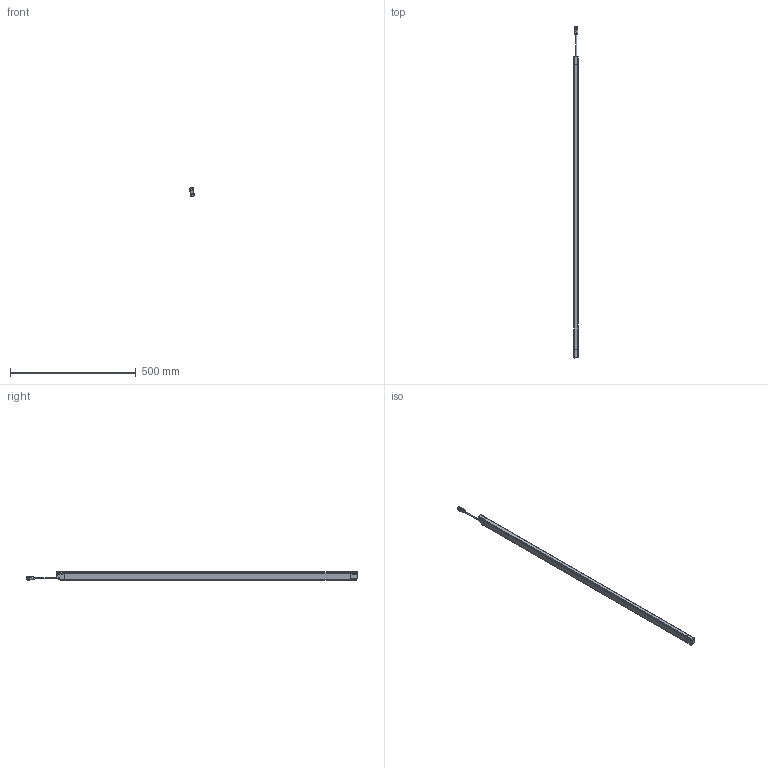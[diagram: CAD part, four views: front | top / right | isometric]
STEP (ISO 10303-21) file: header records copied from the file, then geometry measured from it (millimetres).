
FILE_DESCRIPTION((''),'2;1');
FILE_NAME('2023842','2017-01-19T',('smayer'),(''),'PRO/ENGINEER BY PARAMETRIC TECHNOLOGY CORPORATION, 2015110','PRO/ENGINEER BY PARAMETRIC TECHNOLOGY CORPORATION, 2015110','');
FILE_SCHEMA(('AUTOMOTIVE_DESIGN { 1 0 10303 214 1 1 1 1 }'));
Length unit declared in the file: millimetre
Products named in the file (1): 2023842
Bounding box: 17.36 x 1320.24 x 33.49 mm (x, y, z)
Surface area: 115216.3 mm2 (no closed solid volume)
Topology: 0 solids, 77 shells, 263 faces, 1412 edges, 1191 vertices
Faces by surface type: cylinder 136, plane 71, torus 27, cone 14, bspline 11, sphere 4
Entity records: 22655 total; most frequent: CARTESIAN_POINT 5954, DIRECTION 2097, PRESENTATION_STYLE_ASSIGNMENT 1695, ORIENTED_EDGE 1673, STYLED_ITEM 1432, CURVE_STYLE 1411, EDGE_CURVE 1410, VERTEX_POINT 1191
